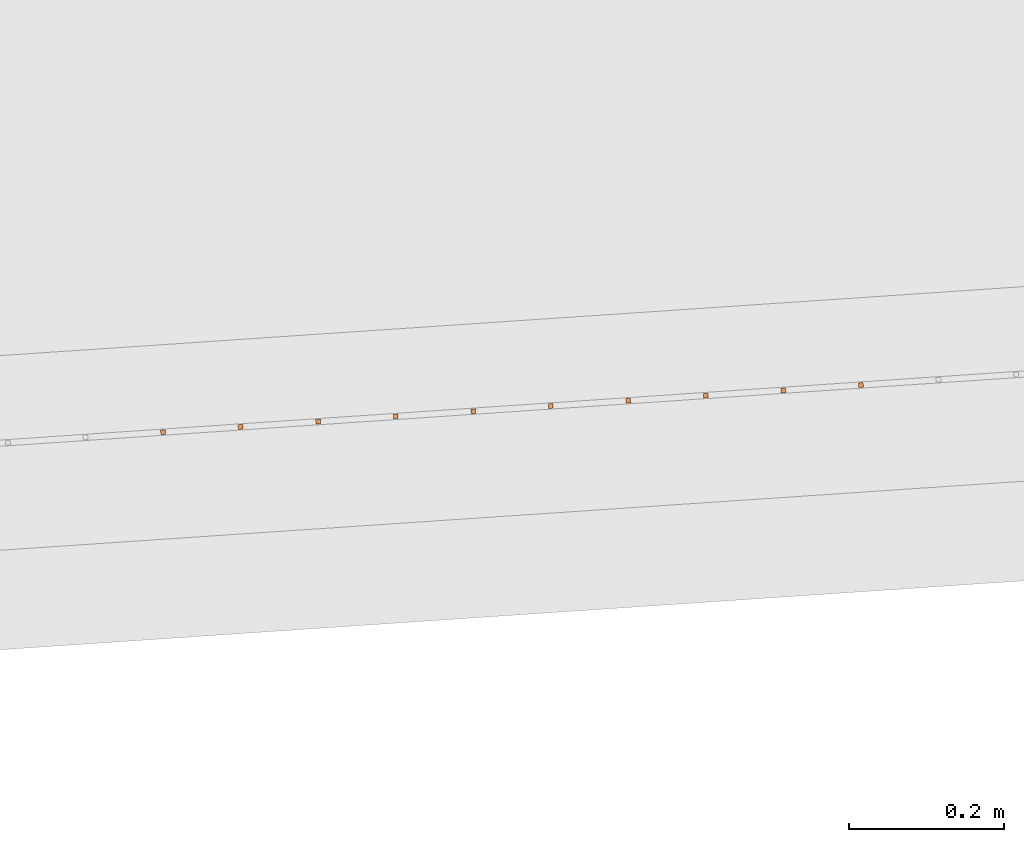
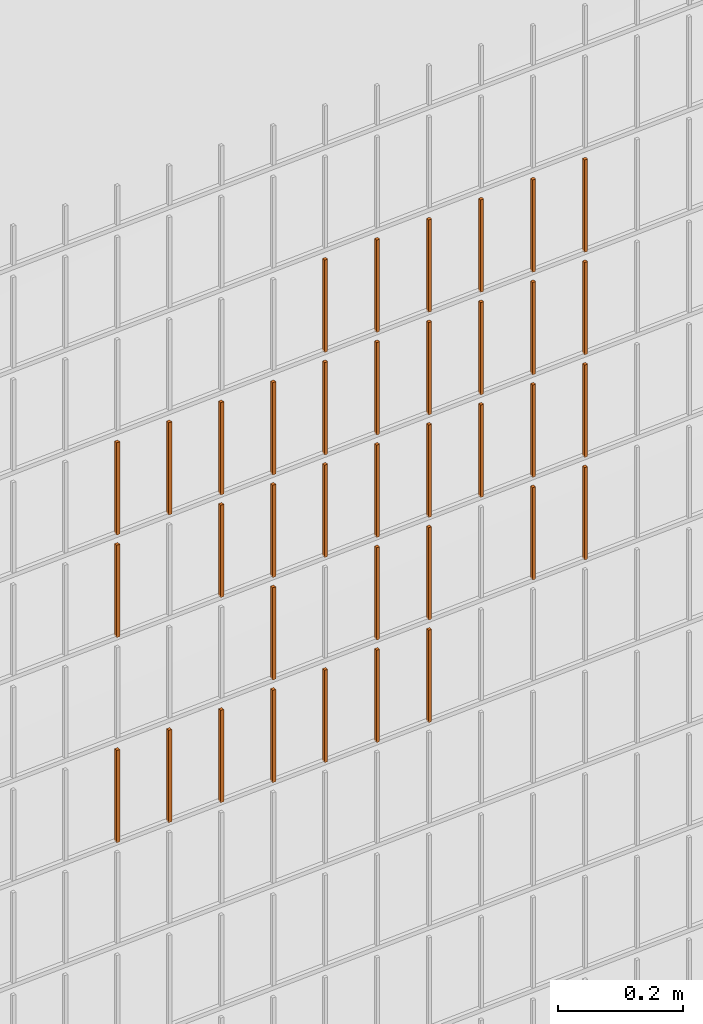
# One storey, part 170 of 1809: 37 proxies, 1 element without a shape of its own.
"""IFC2X3 building model written with IfcOpenShell, lengths in millimetres."""

from ifc_helpers import new_model, entity, si_unit, converted_unit, derived_unit, money_unit, direction, frame, origin_with_axes, place, context, subcontext, project, spatial, faceted_brep, source, transform, mapped, material, type_object, element, aggregate, save


model = new_model("IFC2X3")

# Units and contexts
model_context = context("Model", 3, precision=0.01, world=origin_with_axes(), true_north=direction((0.0, 1.0)))
body_context = subcontext(model_context, "Body", "Model", "MODEL_VIEW")
ifc_project = project(units=[si_unit("LENGTHUNIT", "METRE", prefix="MILLI"), si_unit("AREAUNIT", "SQUARE_METRE"), si_unit("VOLUMEUNIT", "CUBIC_METRE"), converted_unit("PLANEANGLEUNIT", "DEGREE", entity("IfcPlaneAngleMeasure", 0.0174532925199), si_unit("PLANEANGLEUNIT", "RADIAN"), dimensions=[0, 0, 0, 0, 0, 0, 0]), si_unit("SOLIDANGLEUNIT", "STERADIAN"), money_unit("EUR"), converted_unit("TIMEUNIT", "Year", entity("IfcTimeMeasure", 31556926.0), si_unit("TIMEUNIT", "SECOND"), dimensions=[0, 0, 1, 0, 0, 0, 0]), si_unit("MASSUNIT", "GRAM", prefix="KILO"), si_unit("THERMODYNAMICTEMPERATUREUNIT", "DEGREE_CELSIUS"), si_unit("LUMINOUSINTENSITYUNIT", "LUMEN"), si_unit("ENERGYUNIT", "JOULE", prefix="MEGA"), derived_unit("THERMALCONDUCTANCEUNIT", [(si_unit("POWERUNIT", "WATT"), 1), (si_unit("LENGTHUNIT", "METRE"), -1), (si_unit("THERMODYNAMICTEMPERATUREUNIT", "KELVIN"), -1)]), derived_unit("SPECIFICHEATCAPACITYUNIT", [(si_unit("ENERGYUNIT", "JOULE"), 1), (si_unit("MASSUNIT", "GRAM", prefix="KILO"), -1), (si_unit("THERMODYNAMICTEMPERATUREUNIT", "KELVIN"), -1)]), derived_unit("MASSDENSITYUNIT", [(si_unit("MASSUNIT", "GRAM", prefix="KILO"), 1), (si_unit("VOLUMEUNIT", "CUBIC_METRE"), -1)])], contexts=[model_context])

# Site, building, storey
site_placement = place(None, origin_with_axes())
site = spatial("IfcSite", under=ifc_project, at=site_placement, Name="Politse- ja Piirivalveameti ning Päästeameti ühishoone", CompositionType="ELEMENT")
building_placement = place(site_placement, origin_with_axes())
building = spatial("IfcBuilding", under=site, at=building_placement, Name="Politse- ja Piirivalveameti ning Päästeameti ühishoone", CompositionType="ELEMENT")
storey_placement = place(building_placement, origin_with_axes())
storey = spatial("IfcBuildingStorey", under=building, at=storey_placement, Name="Esimene korrus", CompositionType="ELEMENT", Elevation=0.0)

# Proxies
building_element_proxy_type_1 = type_object("IfcBuildingElementProxyType", Name="Railing Type", PredefinedType="NOTDEFINED")
proxy_1_placement = place(storey_placement, frame((89252.001212, -29183.4766571, 203.661247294), z_axis=(0.0, 0.0, 1.0), x_axis=(1.0, 0.0, 0.0)))
proxy_1 = element("IfcBuildingElementProxy", 1, at=proxy_1_placement, inside=storey, type_object=building_element_proxy_type_1, Name="PIIRDEAED")
ifc_material = material(Name="ET-03_Raud")
building_element_proxy_type_2 = type_object("IfcBuildingElementProxyType", Name="IfcBuildingElementProxy", PredefinedType="NOTDEFINED")
shared_shape_1 = source(origin_with_axes(), body_context, "Body", "Brep", [
    faceted_brep([(3.0, 3.0, -0.000752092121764), (-3.0, 3.0, -0.000752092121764), (-3.0, 3.0, 179.99926046), (3.0, 3.0, 179.99926046), (3.0, -3.0, 0.000752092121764), (-3.0, -3.0, 0.000752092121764), (-3.0, -3.0, 180.000764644), (3.0, -3.0, 180.000764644)], [[[0, 1, 2, 3]], [[0, 4, 5, 1]], [[1, 5, 6, 2]], [[3, 2, 6, 7]], [[4, 0, 3, 7]], [[5, 4, 7, 6]]]),
])
proxy_2_placement = place(proxy_1_placement, frame((-75554.5256338, -22401.1978357, 1208.2499037), z_axis=(0.0, 0.0, 1.0), x_axis=(1.0, 0.0, 0.0)))
proxy_2 = element("IfcBuildingElementProxy", 2, at=proxy_2_placement, type_object=building_element_proxy_type_2, material=ifc_material, Name="BALUSTER - 001", context=body_context, shape_type="MappedRepresentation", body=[
    mapped(shared_shape_1, transform((0.0, 0.0, 0.0), x_axis=(-0.0673926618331, 0.997726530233, 0.0), y_axis=(-0.997726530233, -0.0673926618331, 0.0), z_axis=(0.0, 0.0, 1.0))),
])
shared_shape_2 = source(origin_with_axes(), body_context, "Body", "Brep", [
    faceted_brep([(3.0, 3.0, -0.000752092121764), (-3.0, 3.0, -0.000752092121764), (-3.0, 3.0, 179.99926046), (3.0, 3.0, 179.99926046), (3.0, -3.0, 0.000752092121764), (-3.0, -3.0, 0.000752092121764), (-3.0, -3.0, 180.000764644), (3.0, -3.0, 180.000764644)], [[[0, 1, 2, 3]], [[0, 4, 5, 1]], [[1, 5, 6, 2]], [[3, 2, 6, 7]], [[4, 0, 3, 7]], [[5, 4, 7, 6]]]),
])
proxy_3_placement = place(proxy_1_placement, frame((-75554.5256338, -22401.1978357, 1408.2499037), z_axis=(0.0, 0.0, 1.0), x_axis=(1.0, 0.0, 0.0)))
proxy_3 = element("IfcBuildingElementProxy", 3, at=proxy_3_placement, type_object=building_element_proxy_type_2, material=ifc_material, Name="BALUSTER - 001", context=body_context, shape_type="MappedRepresentation", body=[
    mapped(shared_shape_2, transform((0.0, 0.0, 0.0), x_axis=(-0.0673926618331, 0.997726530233, 0.0), y_axis=(-0.997726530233, -0.0673926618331, 0.0), z_axis=(0.0, 0.0, 1.0))),
])
proxy_4_placement = place(proxy_1_placement, frame((-75554.5256338, -22401.1978357, 1608.2499037), z_axis=(0.0, 0.0, 1.0), x_axis=(1.0, 0.0, 0.0)))
proxy_4 = element("IfcBuildingElementProxy", 4, at=proxy_4_placement, type_object=building_element_proxy_type_2, material=ifc_material, Name="BALUSTER - 001", context=body_context, shape_type="MappedRepresentation", body=[
    mapped(shared_shape_2, transform((0.0, 0.0, 0.0), x_axis=(-0.0673926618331, 0.997726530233, 0.0), y_axis=(-0.997726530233, -0.0673926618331, 0.0), z_axis=(0.0, 0.0, 1.0))),
])
shared_shape_3 = source(origin_with_axes(), body_context, "Body", "Brep", [
    faceted_brep([(3.0, 3.0, -0.000752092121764), (-3.0, 3.0, -0.000752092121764), (-3.0, 3.0, 179.99926046), (3.0, 3.0, 179.99926046), (3.0, -3.0, 0.000752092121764), (-3.0, -3.0, 0.000752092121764), (-3.0, -3.0, 180.000764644), (3.0, -3.0, 180.000764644)], [[[0, 1, 2, 3]], [[0, 4, 5, 1]], [[1, 5, 6, 2]], [[3, 2, 6, 7]], [[4, 0, 3, 7]], [[5, 4, 7, 6]]]),
])
proxy_5_placement = place(proxy_1_placement, frame((-75354.9803278, -22387.7193033, 1208.30004318), z_axis=(0.0, 0.0, 1.0), x_axis=(1.0, 0.0, 0.0)))
proxy_5 = element("IfcBuildingElementProxy", 5, at=proxy_5_placement, type_object=building_element_proxy_type_2, material=ifc_material, Name="BALUSTER - 001", context=body_context, shape_type="MappedRepresentation", body=[
    mapped(shared_shape_3, transform((0.0, 0.0, 0.0), x_axis=(-0.0673926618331, 0.997726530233, 0.0), y_axis=(-0.997726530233, -0.0673926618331, 0.0), z_axis=(0.0, 0.0, 1.0))),
])
proxy_6_placement = place(proxy_1_placement, frame((-76153.161552, -22441.6334328, 1208.09948528), z_axis=(0.0, 0.0, 1.0), x_axis=(1.0, 0.0, 0.0)))
proxy_6 = element("IfcBuildingElementProxy", 6, at=proxy_6_placement, type_object=building_element_proxy_type_2, material=ifc_material, Name="BALUSTER - 001", context=body_context, shape_type="MappedRepresentation", body=[
    mapped(shared_shape_3, transform((0.0, 0.0, 0.0), x_axis=(-0.0673926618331, 0.997726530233, 0.0), y_axis=(-0.997726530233, -0.0673926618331, 0.0), z_axis=(0.0, 0.0, 1.0))),
])
shared_shape_4 = source(origin_with_axes(), body_context, "Body", "Brep", [
    faceted_brep([(3.0, 3.0, -0.000752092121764), (-3.0, 3.0, -0.000752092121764), (-3.0, 3.0, 179.99926046), (3.0, 3.0, 179.99926046), (3.0, -3.0, 0.000752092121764), (-3.0, -3.0, 0.000752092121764), (-3.0, -3.0, 180.000764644), (3.0, -3.0, 180.000764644)], [[[0, 1, 2, 3]], [[0, 4, 5, 1]], [[1, 5, 6, 2]], [[3, 2, 6, 7]], [[4, 0, 3, 7]], [[5, 4, 7, 6]]]),
])
proxy_7_placement = place(proxy_1_placement, frame((-75754.0709399, -22414.676368, 1208.19976423), z_axis=(0.0, 0.0, 1.0), x_axis=(1.0, 0.0, 0.0)))
proxy_7 = element("IfcBuildingElementProxy", 7, at=proxy_7_placement, type_object=building_element_proxy_type_2, material=ifc_material, Name="BALUSTER - 001", context=body_context, shape_type="MappedRepresentation", body=[
    mapped(shared_shape_4, transform((0.0, 0.0, 0.0), x_axis=(-0.0673926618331, 0.997726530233, 0.0), y_axis=(-0.997726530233, -0.0673926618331, 0.0), z_axis=(0.0, 0.0, 1.0))),
])
shared_shape_5 = source(origin_with_axes(), body_context, "Body", "Brep", [
    faceted_brep([(3.0, 3.0, -0.000752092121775), (-3.0, 3.0, -0.000752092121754), (-3.0, 3.0, 179.99926046), (3.0, 3.0, 179.99926046), (3.0, -3.0, 0.000752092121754), (-3.0, -3.0, 0.000752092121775), (-3.0, -3.0, 180.000764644), (3.0, -3.0, 180.000764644)], [[[0, 1, 2, 3]], [[0, 4, 5, 1]], [[1, 5, 6, 2]], [[3, 2, 6, 7]], [[4, 0, 3, 7]], [[5, 4, 7, 6]]]),
])
proxy_8_placement = place(proxy_1_placement, frame((-76053.3888989, -22434.8941666, 808.124555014), z_axis=(0.0, 0.0, 1.0), x_axis=(1.0, 0.0, 0.0)))
proxy_8 = element("IfcBuildingElementProxy", 8, at=proxy_8_placement, type_object=building_element_proxy_type_2, material=ifc_material, Name="BALUSTER - 001", context=body_context, shape_type="MappedRepresentation", body=[
    mapped(shared_shape_5, transform((0.0, 0.0, 0.0), x_axis=(-0.0673926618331, 0.997726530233, 0.0), y_axis=(-0.997726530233, -0.0673926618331, 0.0), z_axis=(0.0, 0.0, 1.0))),
])
shared_shape_6 = source(origin_with_axes(), body_context, "Body", "Brep", [
    faceted_brep([(3.0, 3.0, -0.000752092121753), (-3.0, 3.0, -0.000752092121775), (-3.0, 3.0, 179.99926046), (3.0, 3.0, 179.99926046), (3.0, -3.0, 0.000752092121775), (-3.0, -3.0, 0.000752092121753), (-3.0, -3.0, 180.000764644), (3.0, -3.0, 180.000764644)], [[[0, 1, 2, 3]], [[0, 4, 5, 1]], [[1, 5, 6, 2]], [[3, 2, 6, 7]], [[4, 0, 3, 7]], [[5, 4, 7, 6]]]),
])
proxy_9_placement = place(proxy_1_placement, frame((-75554.5256338, -22401.1978357, 808.249903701), z_axis=(0.0, 0.0, 1.0), x_axis=(1.0, 0.0, 0.0)))
proxy_9 = element("IfcBuildingElementProxy", 9, at=proxy_9_placement, type_object=building_element_proxy_type_2, material=ifc_material, Name="BALUSTER - 001", context=body_context, shape_type="MappedRepresentation", body=[
    mapped(shared_shape_6, transform((0.0, 0.0, 0.0), x_axis=(-0.0673926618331, 0.997726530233, 0.0), y_axis=(-0.997726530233, -0.0673926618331, 0.0), z_axis=(0.0, 0.0, 1.0))),
])
proxy_10_placement = place(proxy_1_placement, frame((-75853.8435929, -22421.4156342, 808.174694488), z_axis=(0.0, 0.0, 1.0), x_axis=(1.0, 0.0, 0.0)))
proxy_10 = element("IfcBuildingElementProxy", 10, at=proxy_10_placement, type_object=building_element_proxy_type_2, material=ifc_material, Name="BALUSTER - 001", context=body_context, shape_type="MappedRepresentation", body=[
    mapped(shared_shape_6, transform((0.0, 0.0, 0.0), x_axis=(-0.0673926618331, 0.997726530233, 0.0), y_axis=(-0.997726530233, -0.0673926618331, 0.0), z_axis=(0.0, 0.0, 1.0))),
])
proxy_11_placement = place(proxy_1_placement, frame((-75953.6162459, -22428.1549004, 808.149624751), z_axis=(0.0, 0.0, 1.0), x_axis=(1.0, 0.0, 0.0)))
proxy_11 = element("IfcBuildingElementProxy", 11, at=proxy_11_placement, type_object=building_element_proxy_type_2, material=ifc_material, Name="BALUSTER - 001", context=body_context, shape_type="MappedRepresentation", body=[
    mapped(shared_shape_6, transform((0.0, 0.0, 0.0), x_axis=(-0.0673926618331, 0.997726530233, 0.0), y_axis=(-0.997726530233, -0.0673926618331, 0.0), z_axis=(0.0, 0.0, 1.0))),
])
proxy_12_placement = place(proxy_1_placement, frame((-75255.2076748, -22380.9800371, 1208.32511291), z_axis=(0.0, 0.0, 1.0), x_axis=(1.0, 0.0, 0.0)))
proxy_12 = element("IfcBuildingElementProxy", 12, at=proxy_12_placement, type_object=building_element_proxy_type_2, material=ifc_material, Name="BALUSTER - 001", context=body_context, shape_type="MappedRepresentation", body=[
    mapped(shared_shape_6, transform((0.0, 0.0, 0.0), x_axis=(-0.0673926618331, 0.997726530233, 0.0), y_axis=(-0.997726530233, -0.0673926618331, 0.0), z_axis=(0.0, 0.0, 1.0))),
])
proxy_13_placement = place(proxy_1_placement, frame((-75853.8435929, -22421.4156342, 1208.17469449), z_axis=(0.0, 0.0, 1.0), x_axis=(1.0, 0.0, 0.0)))
proxy_13 = element("IfcBuildingElementProxy", 13, at=proxy_13_placement, type_object=building_element_proxy_type_2, material=ifc_material, Name="BALUSTER - 001", context=body_context, shape_type="MappedRepresentation", body=[
    mapped(shared_shape_6, transform((0.0, 0.0, 0.0), x_axis=(-0.0673926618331, 0.997726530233, 0.0), y_axis=(-0.997726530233, -0.0673926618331, 0.0), z_axis=(0.0, 0.0, 1.0))),
])
shared_shape_7 = source(origin_with_axes(), body_context, "Body", "Brep", [
    faceted_brep([(3.0, 3.0, -0.000752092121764), (-3.0, 3.0, -0.000752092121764), (-3.0, 3.0, 179.99926046), (3.0, 3.0, 179.99926046), (3.0, -3.0, 0.000752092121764), (-3.0, -3.0, 0.000752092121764), (-3.0, -3.0, 180.000764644), (3.0, -3.0, 180.000764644)], [[[0, 1, 2, 3]], [[0, 4, 5, 1]], [[1, 5, 6, 2]], [[3, 2, 6, 7]], [[4, 0, 3, 7]], [[5, 4, 7, 6]]]),
])
proxy_14_placement = place(proxy_1_placement, frame((-75454.7529808, -22394.4585695, 1208.27497344), z_axis=(0.0, 0.0, 1.0), x_axis=(1.0, 0.0, 0.0)))
proxy_14 = element("IfcBuildingElementProxy", 14, at=proxy_14_placement, type_object=building_element_proxy_type_2, material=ifc_material, Name="BALUSTER - 001", context=body_context, shape_type="MappedRepresentation", body=[
    mapped(shared_shape_7, transform((0.0, 0.0, 0.0), x_axis=(-0.0673926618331, 0.997726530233, 0.0), y_axis=(-0.997726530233, -0.0673926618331, 0.0), z_axis=(0.0, 0.0, 1.0))),
])
shared_shape_8 = source(origin_with_axes(), body_context, "Body", "Brep", [
    faceted_brep([(3.0, 3.0, -0.000752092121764), (-3.0, 3.0, -0.000752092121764), (-3.0, 3.0, 179.99926046), (3.0, 3.0, 179.99926046), (3.0, -3.0, 0.000752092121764), (-3.0, -3.0, 0.000752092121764), (-3.0, -3.0, 180.000764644), (3.0, -3.0, 180.000764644)], [[[0, 1, 2, 3]], [[0, 4, 5, 1]], [[1, 5, 6, 2]], [[3, 2, 6, 7]], [[4, 0, 3, 7]], [[5, 4, 7, 6]]]),
])
proxy_15_placement = place(proxy_1_placement, frame((-75754.0709399, -22414.676368, 1408.19976423), z_axis=(0.0, 0.0, 1.0), x_axis=(1.0, 0.0, 0.0)))
proxy_15 = element("IfcBuildingElementProxy", 15, at=proxy_15_placement, type_object=building_element_proxy_type_2, material=ifc_material, Name="BALUSTER - 001", context=body_context, shape_type="MappedRepresentation", body=[
    mapped(shared_shape_8, transform((0.0, 0.0, 0.0), x_axis=(-0.0673926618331, 0.997726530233, 0.0), y_axis=(-0.997726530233, -0.0673926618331, 0.0), z_axis=(0.0, 0.0, 1.0))),
])
proxy_16_placement = place(proxy_1_placement, frame((-75754.0709399, -22414.676368, 1608.19976423), z_axis=(0.0, 0.0, 1.0), x_axis=(1.0, 0.0, 0.0)))
proxy_16 = element("IfcBuildingElementProxy", 16, at=proxy_16_placement, type_object=building_element_proxy_type_2, material=ifc_material, Name="BALUSTER - 001", context=body_context, shape_type="MappedRepresentation", body=[
    mapped(shared_shape_8, transform((0.0, 0.0, 0.0), x_axis=(-0.0673926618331, 0.997726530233, 0.0), y_axis=(-0.997726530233, -0.0673926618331, 0.0), z_axis=(0.0, 0.0, 1.0))),
])
shared_shape_9 = source(origin_with_axes(), body_context, "Body", "Brep", [
    faceted_brep([(3.0, 3.0, -0.000752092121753), (-3.0, 3.0, -0.000752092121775), (-3.0, 3.0, 179.99926046), (3.0, 3.0, 179.99926046), (3.0, -3.0, 0.000752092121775), (-3.0, -3.0, 0.000752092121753), (-3.0, -3.0, 180.000764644), (3.0, -3.0, 180.000764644)], [[[0, 1, 2, 3]], [[0, 4, 5, 1]], [[1, 5, 6, 2]], [[3, 2, 6, 7]], [[4, 0, 3, 7]], [[5, 4, 7, 6]]]),
])
proxy_17_placement = place(proxy_1_placement, frame((-75255.2076748, -22380.9800371, 1408.32511291), z_axis=(0.0, 0.0, 1.0), x_axis=(1.0, 0.0, 0.0)))
proxy_17 = element("IfcBuildingElementProxy", 17, at=proxy_17_placement, type_object=building_element_proxy_type_2, material=ifc_material, Name="BALUSTER - 001", context=body_context, shape_type="MappedRepresentation", body=[
    mapped(shared_shape_9, transform((0.0, 0.0, 0.0), x_axis=(-0.0673926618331, 0.997726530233, 0.0), y_axis=(-0.997726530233, -0.0673926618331, 0.0), z_axis=(0.0, 0.0, 1.0))),
])
proxy_18_placement = place(proxy_1_placement, frame((-75853.8435929, -22421.4156342, 1408.17469449), z_axis=(0.0, 0.0, 1.0), x_axis=(1.0, 0.0, 0.0)))
proxy_18 = element("IfcBuildingElementProxy", 18, at=proxy_18_placement, type_object=building_element_proxy_type_2, material=ifc_material, Name="BALUSTER - 001", context=body_context, shape_type="MappedRepresentation", body=[
    mapped(shared_shape_9, transform((0.0, 0.0, 0.0), x_axis=(-0.0673926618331, 0.997726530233, 0.0), y_axis=(-0.997726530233, -0.0673926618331, 0.0), z_axis=(0.0, 0.0, 1.0))),
])
proxy_19_placement = place(proxy_1_placement, frame((-75255.2076748, -22380.9800371, 1608.32511291), z_axis=(0.0, 0.0, 1.0), x_axis=(1.0, 0.0, 0.0)))
proxy_19 = element("IfcBuildingElementProxy", 19, at=proxy_19_placement, type_object=building_element_proxy_type_2, material=ifc_material, Name="BALUSTER - 001", context=body_context, shape_type="MappedRepresentation", body=[
    mapped(shared_shape_9, transform((0.0, 0.0, 0.0), x_axis=(-0.0673926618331, 0.997726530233, 0.0), y_axis=(-0.997726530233, -0.0673926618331, 0.0), z_axis=(0.0, 0.0, 1.0))),
])
shared_shape_10 = source(origin_with_axes(), body_context, "Body", "Brep", [
    faceted_brep([(3.0, 3.0, -0.000752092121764), (-3.0, 3.0, -0.000752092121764), (-3.0, 3.0, 179.99926046), (3.0, 3.0, 179.99926046), (3.0, -3.0, 0.000752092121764), (-3.0, -3.0, 0.000752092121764), (-3.0, -3.0, 180.000764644), (3.0, -3.0, 180.000764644)], [[[0, 1, 2, 3]], [[0, 4, 5, 1]], [[1, 5, 6, 2]], [[3, 2, 6, 7]], [[4, 0, 3, 7]], [[5, 4, 7, 6]]]),
])
proxy_20_placement = place(proxy_1_placement, frame((-75454.7529808, -22394.4585695, 1408.27497344), z_axis=(0.0, 0.0, 1.0), x_axis=(1.0, 0.0, 0.0)))
proxy_20 = element("IfcBuildingElementProxy", 20, at=proxy_20_placement, type_object=building_element_proxy_type_2, material=ifc_material, Name="BALUSTER - 001", context=body_context, shape_type="MappedRepresentation", body=[
    mapped(shared_shape_10, transform((0.0, 0.0, 0.0), x_axis=(-0.0673926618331, 0.997726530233, 0.0), y_axis=(-0.997726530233, -0.0673926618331, 0.0), z_axis=(0.0, 0.0, 1.0))),
])
proxy_21_placement = place(proxy_1_placement, frame((-75454.7529808, -22394.4585695, 1608.27497344), z_axis=(0.0, 0.0, 1.0), x_axis=(1.0, 0.0, 0.0)))
proxy_21 = element("IfcBuildingElementProxy", 21, at=proxy_21_placement, type_object=building_element_proxy_type_2, material=ifc_material, Name="BALUSTER - 001", context=body_context, shape_type="MappedRepresentation", body=[
    mapped(shared_shape_10, transform((0.0, 0.0, 0.0), x_axis=(-0.0673926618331, 0.997726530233, 0.0), y_axis=(-0.997726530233, -0.0673926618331, 0.0), z_axis=(0.0, 0.0, 1.0))),
])
shared_shape_11 = source(origin_with_axes(), body_context, "Body", "Brep", [
    faceted_brep([(3.0, 3.0, -0.000752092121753), (-3.0, 3.0, -0.000752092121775), (-3.0, 3.0, 179.99926046), (3.0, 3.0, 179.99926046), (3.0, -3.0, 0.000752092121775), (-3.0, -3.0, 0.000752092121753), (-3.0, -3.0, 180.000764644), (3.0, -3.0, 180.000764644)], [[[0, 1, 2, 3]], [[0, 4, 5, 1]], [[1, 5, 6, 2]], [[3, 2, 6, 7]], [[4, 0, 3, 7]], [[5, 4, 7, 6]]]),
])
proxy_22_placement = place(proxy_1_placement, frame((-75654.2982869, -22407.9371019, 808.224833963), z_axis=(0.0, 0.0, 1.0), x_axis=(1.0, 0.0, 0.0)))
proxy_22 = element("IfcBuildingElementProxy", 22, at=proxy_22_placement, type_object=building_element_proxy_type_2, material=ifc_material, Name="BALUSTER - 001", context=body_context, shape_type="MappedRepresentation", body=[
    mapped(shared_shape_11, transform((0.0, 0.0, 0.0), x_axis=(-0.0673926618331, 0.997726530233, 0.0), y_axis=(-0.997726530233, -0.0673926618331, 0.0), z_axis=(0.0, 0.0, 1.0))),
])
proxy_23_placement = place(proxy_1_placement, frame((-76153.161552, -22441.6334328, 808.099485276), z_axis=(0.0, 0.0, 1.0), x_axis=(1.0, 0.0, 0.0)))
proxy_23 = element("IfcBuildingElementProxy", 23, at=proxy_23_placement, type_object=building_element_proxy_type_2, material=ifc_material, Name="BALUSTER - 001", context=body_context, shape_type="MappedRepresentation", body=[
    mapped(shared_shape_11, transform((0.0, 0.0, 0.0), x_axis=(-0.0673926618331, 0.997726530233, 0.0), y_axis=(-0.997726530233, -0.0673926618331, 0.0), z_axis=(0.0, 0.0, 1.0))),
])
shared_shape_12 = source(origin_with_axes(), body_context, "Body", "Brep", [
    faceted_brep([(3.0, 3.0, -0.000752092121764), (-3.0, 3.0, -0.000752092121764), (-3.0, 3.0, 179.99926046), (3.0, 3.0, 179.99926046), (3.0, -3.0, 0.000752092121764), (-3.0, -3.0, 0.000752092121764), (-3.0, -3.0, 180.000764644), (3.0, -3.0, 180.000764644)], [[[0, 1, 2, 3]], [[0, 4, 5, 1]], [[1, 5, 6, 2]], [[3, 2, 6, 7]], [[4, 0, 3, 7]], [[5, 4, 7, 6]]]),
])
proxy_24_placement = place(proxy_1_placement, frame((-75754.0709399, -22414.676368, 808.199764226), z_axis=(0.0, 0.0, 1.0), x_axis=(1.0, 0.0, 0.0)))
proxy_24 = element("IfcBuildingElementProxy", 24, at=proxy_24_placement, type_object=building_element_proxy_type_2, material=ifc_material, Name="BALUSTER - 001", context=body_context, shape_type="MappedRepresentation", body=[
    mapped(shared_shape_12, transform((0.0, 0.0, 0.0), x_axis=(-0.0673926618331, 0.997726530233, 0.0), y_axis=(-0.997726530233, -0.0673926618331, 0.0), z_axis=(0.0, 0.0, 1.0))),
])
shared_shape_13 = source(origin_with_axes(), body_context, "Body", "Brep", [
    faceted_brep([(3.0, 3.0, -0.000752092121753), (-3.0, 3.0, -0.000752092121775), (-3.0, 3.0, 179.99926046), (3.0, 3.0, 179.99926046), (3.0, -3.0, 0.000752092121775), (-3.0, -3.0, 0.000752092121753), (-3.0, -3.0, 180.000764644), (3.0, -3.0, 180.000764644)], [[[0, 1, 2, 3]], [[0, 4, 5, 1]], [[1, 5, 6, 2]], [[3, 2, 6, 7]], [[4, 0, 3, 7]], [[5, 4, 7, 6]]]),
])
proxy_25_placement = place(proxy_1_placement, frame((-75654.2982869, -22407.9371019, 1008.22483396), z_axis=(0.0, 0.0, 1.0), x_axis=(1.0, 0.0, 0.0)))
proxy_25 = element("IfcBuildingElementProxy", 25, at=proxy_25_placement, type_object=building_element_proxy_type_2, material=ifc_material, Name="BALUSTER - 001", context=body_context, shape_type="MappedRepresentation", body=[
    mapped(shared_shape_13, transform((0.0, 0.0, 0.0), x_axis=(-0.0673926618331, 0.997726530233, 0.0), y_axis=(-0.997726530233, -0.0673926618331, 0.0), z_axis=(0.0, 0.0, 1.0))),
])
shared_shape_14 = source(origin_with_axes(), body_context, "Body", "Brep", [
    faceted_brep([(3.0, 3.0, -0.000752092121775), (-3.0, 3.0, -0.000752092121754), (-3.0, 3.0, 179.99926046), (3.0, 3.0, 179.99926046), (3.0, -3.0, 0.000752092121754), (-3.0, -3.0, 0.000752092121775), (-3.0, -3.0, 180.000764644), (3.0, -3.0, 180.000764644)], [[[0, 1, 2, 3]], [[0, 4, 5, 1]], [[1, 5, 6, 2]], [[3, 2, 6, 7]], [[4, 0, 3, 7]], [[5, 4, 7, 6]]]),
])
proxy_26_placement = place(proxy_1_placement, frame((-75953.6162459, -22428.1549004, 1208.14962475), z_axis=(0.0, 0.0, 1.0), x_axis=(1.0, 0.0, 0.0)))
proxy_26 = element("IfcBuildingElementProxy", 26, at=proxy_26_placement, type_object=building_element_proxy_type_2, material=ifc_material, Name="BALUSTER - 001", context=body_context, shape_type="MappedRepresentation", body=[
    mapped(shared_shape_14, transform((0.0, 0.0, 0.0), x_axis=(-0.0673926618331, 0.997726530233, 0.0), y_axis=(-0.997726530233, -0.0673926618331, 0.0), z_axis=(0.0, 0.0, 1.0))),
])
shared_shape_15 = source(origin_with_axes(), body_context, "Body", "Brep", [
    faceted_brep([(3.0, 3.0, -0.000752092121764), (-3.0, 3.0, -0.000752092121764), (-3.0, 3.0, 179.99926046), (3.0, 3.0, 179.99926046), (3.0, -3.0, 0.000752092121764), (-3.0, -3.0, 0.000752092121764), (-3.0, -3.0, 180.000764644), (3.0, -3.0, 180.000764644)], [[[0, 1, 2, 3]], [[0, 4, 5, 1]], [[1, 5, 6, 2]], [[3, 2, 6, 7]], [[4, 0, 3, 7]], [[5, 4, 7, 6]]]),
])
proxy_27_placement = place(proxy_1_placement, frame((-75354.9803278, -22387.7193033, 1408.30004318), z_axis=(0.0, 0.0, 1.0), x_axis=(1.0, 0.0, 0.0)))
proxy_27 = element("IfcBuildingElementProxy", 27, at=proxy_27_placement, type_object=building_element_proxy_type_2, material=ifc_material, Name="BALUSTER - 001", context=body_context, shape_type="MappedRepresentation", body=[
    mapped(shared_shape_15, transform((0.0, 0.0, 0.0), x_axis=(-0.0673926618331, 0.997726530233, 0.0), y_axis=(-0.997726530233, -0.0673926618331, 0.0), z_axis=(0.0, 0.0, 1.0))),
])
proxy_28_placement = place(proxy_1_placement, frame((-76153.161552, -22441.6334328, 1408.09948528), z_axis=(0.0, 0.0, 1.0), x_axis=(1.0, 0.0, 0.0)))
proxy_28 = element("IfcBuildingElementProxy", 28, at=proxy_28_placement, type_object=building_element_proxy_type_2, material=ifc_material, Name="BALUSTER - 001", context=body_context, shape_type="MappedRepresentation", body=[
    mapped(shared_shape_15, transform((0.0, 0.0, 0.0), x_axis=(-0.0673926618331, 0.997726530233, 0.0), y_axis=(-0.997726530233, -0.0673926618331, 0.0), z_axis=(0.0, 0.0, 1.0))),
])
proxy_29_placement = place(proxy_1_placement, frame((-75354.9803278, -22387.7193033, 1608.30004318), z_axis=(0.0, 0.0, 1.0), x_axis=(1.0, 0.0, 0.0)))
proxy_29 = element("IfcBuildingElementProxy", 29, at=proxy_29_placement, type_object=building_element_proxy_type_2, material=ifc_material, Name="BALUSTER - 001", context=body_context, shape_type="MappedRepresentation", body=[
    mapped(shared_shape_15, transform((0.0, 0.0, 0.0), x_axis=(-0.0673926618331, 0.997726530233, 0.0), y_axis=(-0.997726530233, -0.0673926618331, 0.0), z_axis=(0.0, 0.0, 1.0))),
])
shared_shape_16 = source(origin_with_axes(), body_context, "Body", "Brep", [
    faceted_brep([(3.0, 3.0, -0.000752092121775), (-3.0, 3.0, -0.000752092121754), (-3.0, 3.0, 179.99926046), (3.0, 3.0, 179.99926046), (3.0, -3.0, 0.000752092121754), (-3.0, -3.0, 0.000752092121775), (-3.0, -3.0, 180.000764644), (3.0, -3.0, 180.000764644)], [[[0, 1, 2, 3]], [[0, 4, 5, 1]], [[1, 5, 6, 2]], [[3, 2, 6, 7]], [[4, 0, 3, 7]], [[5, 4, 7, 6]]]),
])
proxy_30_placement = place(proxy_1_placement, frame((-75953.6162459, -22428.1549004, 1408.14962475), z_axis=(0.0, 0.0, 1.0), x_axis=(1.0, 0.0, 0.0)))
proxy_30 = element("IfcBuildingElementProxy", 30, at=proxy_30_placement, type_object=building_element_proxy_type_2, material=ifc_material, Name="BALUSTER - 001", context=body_context, shape_type="MappedRepresentation", body=[
    mapped(shared_shape_16, transform((0.0, 0.0, 0.0), x_axis=(-0.0673926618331, 0.997726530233, 0.0), y_axis=(-0.997726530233, -0.0673926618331, 0.0), z_axis=(0.0, 0.0, 1.0))),
])
shared_shape_17 = source(origin_with_axes(), body_context, "Body", "Brep", [
    faceted_brep([(3.0, 3.0, -0.000752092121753), (-3.0, 3.0, -0.000752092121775), (-3.0, 3.0, 179.99926046), (3.0, 3.0, 179.99926046), (3.0, -3.0, 0.000752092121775), (-3.0, -3.0, 0.000752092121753), (-3.0, -3.0, 180.000764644), (3.0, -3.0, 180.000764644)], [[[0, 1, 2, 3]], [[0, 4, 5, 1]], [[1, 5, 6, 2]], [[3, 2, 6, 7]], [[4, 0, 3, 7]], [[5, 4, 7, 6]]]),
])
proxy_31_placement = place(proxy_1_placement, frame((-75654.2982869, -22407.9371019, 1208.22483396), z_axis=(0.0, 0.0, 1.0), x_axis=(1.0, 0.0, 0.0)))
proxy_31 = element("IfcBuildingElementProxy", 31, at=proxy_31_placement, type_object=building_element_proxy_type_2, material=ifc_material, Name="BALUSTER - 001", context=body_context, shape_type="MappedRepresentation", body=[
    mapped(shared_shape_17, transform((0.0, 0.0, 0.0), x_axis=(-0.0673926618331, 0.997726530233, 0.0), y_axis=(-0.997726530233, -0.0673926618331, 0.0), z_axis=(0.0, 0.0, 1.0))),
])
shared_shape_18 = source(origin_with_axes(), body_context, "Body", "Brep", [
    faceted_brep([(3.0, 3.0, -0.0007520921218), (-3.0, 3.0, -0.000752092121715), (-3.0, 3.00000000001, 179.99926046), (3.0, 3.00000000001, 179.99926046), (3.0, -3.0, 0.000752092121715), (-3.0, -3.0, 0.0007520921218), (-3.0, -2.99999999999, 180.000764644), (3.0, -2.99999999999, 180.000764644)], [[[0, 1, 2, 3]], [[0, 4, 5, 1]], [[1, 5, 6, 2]], [[3, 2, 6, 7]], [[4, 0, 3, 7]], [[5, 4, 7, 6]]]),
])
proxy_32_placement = place(proxy_1_placement, frame((-75354.9803278, -22387.7193033, 1008.30004318), z_axis=(0.0, 0.0, 1.0), x_axis=(1.0, 0.0, 0.0)))
proxy_32 = element("IfcBuildingElementProxy", 32, at=proxy_32_placement, type_object=building_element_proxy_type_2, material=ifc_material, Name="BALUSTER - 001", context=body_context, shape_type="MappedRepresentation", body=[
    mapped(shared_shape_18, transform((0.0, 0.0, 0.0), x_axis=(-0.0673926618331, 0.997726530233, 0.0), y_axis=(-0.997726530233, -0.0673926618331, 0.0), z_axis=(0.0, 0.0, 1.0))),
])
shared_shape_19 = source(origin_with_axes(), body_context, "Body", "Brep", [
    faceted_brep([(3.0, 3.0, -0.000752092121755), (-3.0, 3.0, -0.000752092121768), (-3.00000000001, 3.0, 179.99926046), (2.99999999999, 3.0, 179.99926046), (3.0, -3.0, 0.000752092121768), (-3.0, -3.0, 0.000752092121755), (-3.00000000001, -3.0, 180.000764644), (2.99999999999, -3.0, 180.000764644)], [[[0, 1, 2, 3]], [[0, 4, 5, 1]], [[1, 5, 6, 2]], [[3, 2, 6, 7]], [[4, 0, 3, 7]], [[5, 4, 7, 6]]]),
])
proxy_33_placement = place(proxy_1_placement, frame((-75255.2076748, -22380.9800371, 1008.32511291), z_axis=(0.0, 0.0, 1.0), x_axis=(1.0, 0.0, 0.0)))
proxy_33 = element("IfcBuildingElementProxy", 33, at=proxy_33_placement, type_object=building_element_proxy_type_2, material=ifc_material, Name="BALUSTER - 001", context=body_context, shape_type="MappedRepresentation", body=[
    mapped(shared_shape_19, transform((0.0, 0.0, 0.0), x_axis=(-0.0673926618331, 0.997726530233, 0.0), y_axis=(-0.997726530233, -0.0673926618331, 0.0), z_axis=(0.0, 0.0, 1.0))),
])
shared_shape_20 = source(origin_with_axes(), body_context, "Body", "Brep", [
    faceted_brep([(3.0, 3.0, -0.000752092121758), (-3.0, 3.0, -0.00075209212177), (-3.00000000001, 3.0, 179.99926046), (2.99999999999, 3.0, 179.99926046), (3.0, -3.0, 0.00075209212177), (-3.0, -3.0, 0.000752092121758), (-3.00000000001, -3.0, 180.000764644), (2.99999999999, -3.0, 180.000764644)], [[[0, 1, 2, 3]], [[0, 4, 5, 1]], [[1, 5, 6, 2]], [[3, 2, 6, 7]], [[4, 0, 3, 7]], [[5, 4, 7, 6]]]),
])
proxy_34_placement = place(proxy_1_placement, frame((-75554.5256338, -22401.1978357, 1008.2499037), z_axis=(0.0, 0.0, 1.0), x_axis=(1.0, 0.0, 0.0)))
proxy_34 = element("IfcBuildingElementProxy", 34, at=proxy_34_placement, type_object=building_element_proxy_type_2, material=ifc_material, Name="BALUSTER - 001", context=body_context, shape_type="MappedRepresentation", body=[
    mapped(shared_shape_20, transform((0.0, 0.0, 0.0), x_axis=(-0.0673926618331, 0.997726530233, 0.0), y_axis=(-0.997726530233, -0.0673926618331, 0.0), z_axis=(0.0, 0.0, 1.0))),
])
shared_shape_21 = source(origin_with_axes(), body_context, "Body", "Brep", [
    faceted_brep([(3.0, 3.0, -0.000752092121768), (-3.0, 3.0, -0.00075209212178), (-3.00000000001, 3.0, 179.99926046), (2.99999999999, 3.0, 179.99926046), (3.0, -3.0, 0.00075209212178), (-3.0, -3.0, 0.000752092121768), (-3.00000000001, -3.0, 180.000764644), (2.99999999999, -3.0, 180.000764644)], [[[0, 1, 2, 3]], [[0, 4, 5, 1]], [[1, 5, 6, 2]], [[3, 2, 6, 7]], [[4, 0, 3, 7]], [[5, 4, 7, 6]]]),
])
proxy_35_placement = place(proxy_1_placement, frame((-75853.8435929, -22421.4156342, 1008.17469449), z_axis=(0.0, 0.0, 1.0), x_axis=(1.0, 0.0, 0.0)))
proxy_35 = element("IfcBuildingElementProxy", 35, at=proxy_35_placement, type_object=building_element_proxy_type_2, material=ifc_material, Name="BALUSTER - 001", context=body_context, shape_type="MappedRepresentation", body=[
    mapped(shared_shape_21, transform((0.0, 0.0, 0.0), x_axis=(-0.0673926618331, 0.997726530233, 0.0), y_axis=(-0.997726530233, -0.0673926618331, 0.0), z_axis=(0.0, 0.0, 1.0))),
])
shared_shape_22 = source(origin_with_axes(), body_context, "Body", "Brep", [
    faceted_brep([(3.0, 3.0, -0.000752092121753), (-3.0, 3.0, -0.000752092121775), (-3.0, 3.0, 179.99926046), (3.0, 3.0, 179.99926046), (3.0, -3.0, 0.000752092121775), (-3.0, -3.0, 0.000752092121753), (-3.0, -3.0, 180.000764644), (3.0, -3.0, 180.000764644)], [[[0, 1, 2, 3]], [[0, 4, 5, 1]], [[1, 5, 6, 2]], [[3, 2, 6, 7]], [[4, 0, 3, 7]], [[5, 4, 7, 6]]]),
])
proxy_36_placement = place(proxy_1_placement, frame((-75654.2982869, -22407.9371019, 1408.22483396), z_axis=(0.0, 0.0, 1.0), x_axis=(1.0, 0.0, 0.0)))
proxy_36 = element("IfcBuildingElementProxy", 36, at=proxy_36_placement, type_object=building_element_proxy_type_2, material=ifc_material, Name="BALUSTER - 001", context=body_context, shape_type="MappedRepresentation", body=[
    mapped(shared_shape_22, transform((0.0, 0.0, 0.0), x_axis=(-0.0673926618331, 0.997726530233, 0.0), y_axis=(-0.997726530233, -0.0673926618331, 0.0), z_axis=(0.0, 0.0, 1.0))),
])
proxy_37_placement = place(proxy_1_placement, frame((-75654.2982869, -22407.9371019, 1608.22483396), z_axis=(0.0, 0.0, 1.0), x_axis=(1.0, 0.0, 0.0)))
proxy_37 = element("IfcBuildingElementProxy", 37, at=proxy_37_placement, type_object=building_element_proxy_type_2, material=ifc_material, Name="BALUSTER - 001", context=body_context, shape_type="MappedRepresentation", body=[
    mapped(shared_shape_22, transform((0.0, 0.0, 0.0), x_axis=(-0.0673926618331, 0.997726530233, 0.0), y_axis=(-0.997726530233, -0.0673926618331, 0.0), z_axis=(0.0, 0.0, 1.0))),
])
shared_shape_23 = source(origin_with_axes(), body_context, "Body", "Brep", [
    faceted_brep([(3.0, 3.0, -0.000752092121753), (-3.0, 3.0, -0.000752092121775), (-3.0, 3.0, 179.99926046), (3.0, 3.0, 179.99926046), (3.0, -3.0, 0.000752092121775), (-3.0, -3.0, 0.000752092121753), (-3.0, -3.0, 180.000764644), (3.0, -3.0, 180.000764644)], [[[0, 1, 2, 3]], [[0, 4, 5, 1]], [[1, 5, 6, 2]], [[3, 2, 6, 7]], [[4, 0, 3, 7]], [[5, 4, 7, 6]]]),
])
proxy_38_placement = place(proxy_1_placement, frame((-76053.3888989, -22434.8941666, 1408.12455501), z_axis=(0.0, 0.0, 1.0), x_axis=(1.0, 0.0, 0.0)))
proxy_38 = element("IfcBuildingElementProxy", 38, at=proxy_38_placement, type_object=building_element_proxy_type_2, material=ifc_material, Name="BALUSTER - 001", context=body_context, shape_type="MappedRepresentation", body=[
    mapped(shared_shape_23, transform((0.0, 0.0, 0.0), x_axis=(-0.0673926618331, 0.997726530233, 0.0), y_axis=(-0.997726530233, -0.0673926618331, 0.0), z_axis=(0.0, 0.0, 1.0))),
])
aggregate(proxy_1, [proxy_9, proxy_22, proxy_24, proxy_10, proxy_11, proxy_8, proxy_23, proxy_33, proxy_32, proxy_34, proxy_25, proxy_35, proxy_12, proxy_5, proxy_14, proxy_2, proxy_31, proxy_7, proxy_13, proxy_26, proxy_6, proxy_17, proxy_27, proxy_20, proxy_3, proxy_36, proxy_15, proxy_18, proxy_30, proxy_38, proxy_28, proxy_19, proxy_29, proxy_21, proxy_4, proxy_37, proxy_16])

save(model, "model.ifc")
